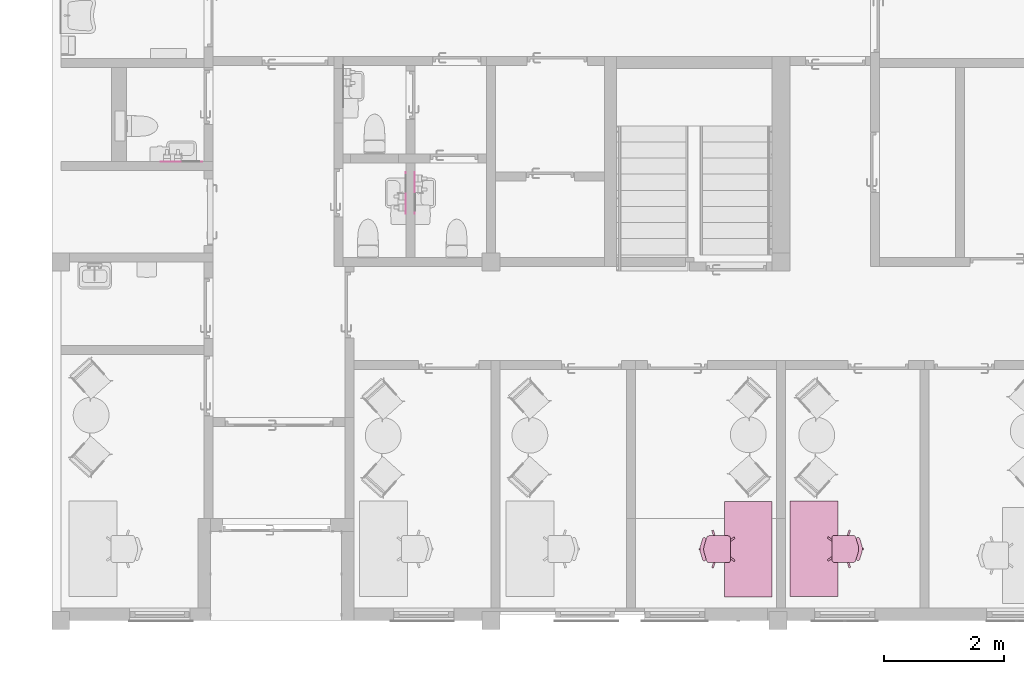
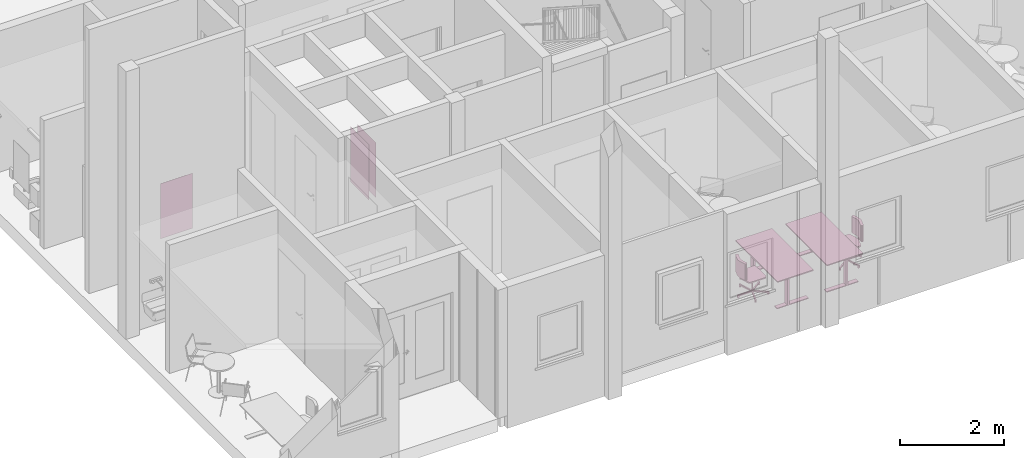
# One storey, part 47 of 58: 7 furnishings.
"""IFC2X3 building model written with IfcOpenShell, lengths in millimetres."""

from ifc_helpers import new_model, entity, si_unit, converted_unit, derived_unit, direction, frame, frame_2d, origin, origin_2d_with_axis, place, context, subcontext, project, spatial, polyline, circle_curve, parameter, trimmed, segment, composite_curve, rectangle, circle, outline, extrude, source, transform, mapped, material, material_list, type_object, type_shapes, element, save


model = new_model("IFC2X3")

# Units and contexts
model_context = context("Model", 3, precision=0.01, world=origin(), true_north=direction((0.7716245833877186, 0.6360782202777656)))
body_context = subcontext(model_context, "Body", "Model", "MODEL_VIEW")
ifc_project = project(units=[si_unit("LENGTHUNIT", "METRE", prefix="MILLI"), si_unit("AREAUNIT", "SQUARE_METRE"), converted_unit("PLANEANGLEUNIT", "DEGREE", entity("IfcPlaneAngleMeasure", 0.017453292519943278), si_unit("PLANEANGLEUNIT", "RADIAN"), dimensions=[0, 0, 0, 0, 0, 0, 0]), derived_unit("THERMALTRANSMITTANCEUNIT", [(si_unit("MASSUNIT", "GRAM", prefix="KILO"), 1), (si_unit("THERMODYNAMICTEMPERATUREUNIT", "KELVIN"), -1), (si_unit("TIMEUNIT", "SECOND"), -3)])], contexts=[model_context])

# Site, building, storey, space
site_placement = place(None, origin())
site = spatial("IfcSite", under=ifc_project, at=site_placement, Name="Default", CompositionType="ELEMENT")
building_placement = place(site_placement, origin())
building = spatial("IfcBuilding", under=site, at=building_placement, CompositionType="ELEMENT")
storey_placement = place(building_placement, frame((0.0, 0.0, 31140.0)))
storey = spatial("IfcBuildingStorey", under=building, at=storey_placement, Name="PLAN U1", CompositionType="ELEMENT", Elevation=31140.000000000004)
space_1_placement = place(storey_placement, origin())
space_1 = spatial("IfcSpace", under=storey, at=space_1_placement, Name="B5-324", CompositionType="ELEMENT", InteriorOrExteriorSpace="INTERNAL")

# Furnishings
ifc_material_1 = material(Name="Metall")
ifc_material_2 = material(Name="Stoff")
ifc_material_list_1 = material_list([ifc_material_1, ifc_material_2])
furniture_type_1 = type_object("IfcFurnitureType", Name="Kontorstol_uten_arml:Kontorstol", AssemblyPlace="NOTDEFINED", material=ifc_material_list_1)
shared_shape_1 = source(origin(), body_context, "Body", "SweptSolid", [
    extrude(rectangle(XDim=23.3196738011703, YDim=29.99387697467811, at=frame_2d((3.375077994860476e-14, 1.7763568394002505e-15), x_axis=(1.0, 0.0))), frame((-0.08594931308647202, -458.13719107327, 420.0), z_axis=(0.0, 0.0, 1.0), x_axis=(0.0, 1.0, 0.0)), (0.0, 0.0, 1.0), 79.99999999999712),
    extrude(outline(composite_curve([segment(trimmed(circle_curve(frame_2d((165.0817705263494, 15.912125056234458), x_axis=(1.0, 0.0)), 30.0), [parameter(295.76627852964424)], [parameter(98.60793662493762)], True, "PARAMETER"), True, "CONTINUOUS"), segment(polyline([(160.59160138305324, 45.57419479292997), (58.70469351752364, 14.060049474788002)]), True, "CONTINUOUS"), segment(trimmed(circle_curve(frame_2d((-0.3939245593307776, 205.1290248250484), x_axis=(1.0, 0.0)), 199.99999999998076), [parameter(252.8128926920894)], [parameter(287.1871075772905)], True, "PARAMETER"), False, "CONTINUOUS"), segment(polyline([(-59.492541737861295, 14.0600491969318), (-159.8037548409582, 45.08682349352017)]), True, "CONTINUOUS"), segment(trimmed(circle_curve(frame_2d((-164.29392269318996, 15.42475356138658), x_axis=(1.0, 0.0)), 30.0), [parameter(81.3920658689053)], [parameter(244.23371951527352)], True, "PARAMETER"), True, "CONTINUOUS"), segment(polyline([(-177.33495783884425, -11.592489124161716), (-59.492540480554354, -48.04175509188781)]), True, "CONTINUOUS"), segment(trimmed(circle_curve(frame_2d((-0.3939233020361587, 143.0272205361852), x_axis=(1.0, 0.0)), 199.99999999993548), [parameter(252.81289269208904)], [parameter(287.18710771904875)], True, "PARAMETER"), True, "CONTINUOUS"), segment(polyline([(58.70469524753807, -48.04175466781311), (178.12280475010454, -11.105118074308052)]), True, "CONTINUOUS")], self_intersect=False)), frame((0.39392509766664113, -452.30864581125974, 500.0)), (0.0, 0.0, 1.0), 384.9999999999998),
    extrude(outline(composite_curve([segment(polyline([(-185.0, -246.35232221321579), (185.0, -246.35232221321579)]), True, "CONTINUOUS"), segment(trimmed(circle_curve(frame_2d((185.0, -206.35232221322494), x_axis=(-1.0, 0.0)), 39.99999999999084), [parameter(89.99999999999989)], [parameter(180.00000000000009)], True, "PARAMETER"), True, "CONTINUOUS"), segment(polyline([(225.0, -206.35232221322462), (225.0, 106.42448376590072)]), True, "CONTINUOUS"), segment(trimmed(circle_curve(frame_2d((184.42156675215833, 110.53750606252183), x_axis=(-1.0, 0.0)), 40.78634828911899), [parameter(174.21227731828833)], [parameter(256.6772413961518)], True, "PARAMETER"), True, "CONTINUOUS"), segment(polyline([(193.82022104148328, 150.22618838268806), (59.098617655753, 191.8962741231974)]), True, "CONTINUOUS"), segment(trimmed(circle_curve(frame_2d((-4.212244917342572e-07, 0.8272987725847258), x_axis=(-1.0, 0.0)), 200.00000000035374), [parameter(252.81289242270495)], [parameter(287.1871075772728)], True, "PARAMETER"), True, "CONTINUOUS"), segment(polyline([(-59.09861849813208, 191.896274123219), (-193.8202209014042, 150.226188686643)]), True, "CONTINUOUS"), segment(trimmed(circle_curve(frame_2d((-184.37947209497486, 110.49005175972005), x_axis=(-1.0, 0.0)), 40.84223691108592), [parameter(283.3648812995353)], [parameter(354.02729163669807)], True, "PARAMETER"), True, "CONTINUOUS"), segment(polyline([(-225.0, 114.73987977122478), (-225.0, -206.35232221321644)]), True, "CONTINUOUS"), segment(trimmed(circle_curve(frame_2d((-185.0, -206.35232221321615), x_axis=(-1.0, 0.0)), 39.99999999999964), [parameter(359.9999999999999)], [parameter(89.99999999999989)], True, "PARAMETER"), True, "CONTINUOUS")], self_intersect=False)), frame((1.1704745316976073e-07, -246.35232221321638, 420.0), z_axis=(0.0, 0.0, 1.0), x_axis=(-1.0, 0.0, 0.0)), (0.0, 0.0, 1.0), 30.000000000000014),
    extrude(circle(Radius=19.999999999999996, at=frame_2d((0.0, -3.383959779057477e-14), x_axis=(1.0, 0.0))), frame((-194.12496236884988, 45.75823201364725, 20.0), z_axis=(0.8091973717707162, 0.5875369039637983, 0.0), x_axis=(-0.5875369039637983, 0.8091973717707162, 0.0)), (0.0, 0.0, 1.0), 29.630650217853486),
    extrude(circle(Radius=19.999999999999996, at=frame_2d((0.0, -8.882894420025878e-14), x_axis=(1.0, 0.0))), frame((-15.095151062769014, -506.38378426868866, 20.0), z_axis=(0.9999999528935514, -0.0003069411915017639, 0.0), x_axis=(-0.0003069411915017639, -0.9999999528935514, 0.0)), (0.0, 0.0, 1.0), 29.999999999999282),
    extrude(circle(Radius=19.999999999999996, at=frame_2d((0.0, -8.882894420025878e-14), x_axis=(1.0, 0.0))), frame((-299.4877855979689, -277.8259021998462, 20.0), z_axis=(0.3087250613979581, -0.9511513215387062, 0.0), x_axis=(-0.9511513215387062, -0.3087250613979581, 0.0)), (0.0, 0.0, 1.0), 29.99999999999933),
    extrude(circle(Radius=19.999999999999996, at=frame_2d((6.842675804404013e-15, -8.882894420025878e-14), x_axis=(1.0, 0.0))), frame((194.42294713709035, 45.53042146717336, 20.0), z_axis=(-0.8088365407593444, 0.5880335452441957, 0.0), x_axis=(0.5880335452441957, 0.8088365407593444, 0.0)), (0.0, 0.0, 1.0), 29.999999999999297),
    extrude(circle(Radius=19.999999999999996, at=frame_2d((0.0, -8.882894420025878e-14), x_axis=(1.0, 0.0))), frame((290.1584691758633, -306.53858576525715, 20.0), z_axis=(0.30930889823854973, 0.9509616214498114, 0.0), x_axis=(0.9509616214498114, -0.30930889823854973, 0.0)), (0.0, 0.0, 1.0), 29.999999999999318),
    extrude(circle(Radius=11.0, at=frame_2d((-8.56791021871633e-15, -6.228970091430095e-15), x_axis=(1.0, 0.0))), frame((0.0, -196.38840298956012, 248.23543396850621), z_axis=(0.0, 0.0, 1.0), x_axis=(0.8088365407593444, -0.5880335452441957, 0.0)), (0.0, 0.0, 1.0), 171.76456603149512),
    extrude(circle(Radius=14.999999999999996, at=frame_2d((1.2051828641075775e-14, 8.761819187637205e-15), x_axis=(1.0, 0.0))), frame((0.0, -196.38840298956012, 70.0), z_axis=(0.0, 0.0, 1.0), x_axis=(0.8088365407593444, -0.5880335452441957, 0.0)), (0.0, 0.0, 1.0), 178.2354339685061),
    extrude(outline(polyline([(20.59372489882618, -14.81532510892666), (330.00800060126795, -14.81532510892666), (330.00800060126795, 14.815325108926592), (20.593724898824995, 14.815325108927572), (116.2494564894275, 309.2133954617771), (87.71776100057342, 318.48390529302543), (-7.87796608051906, 24.270509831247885), (-258.1508287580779, 206.10438817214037), (-275.7843863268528, 181.83387834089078), (-25.511523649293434, 0.0), (-275.78438632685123, -181.83387834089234), (-258.1508287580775, -206.10438817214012), (-7.877966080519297, -24.27050983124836), (87.71776100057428, -318.4839052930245), (116.24945648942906, -309.2133954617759), (20.59372489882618, -14.81532510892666)])), frame((0.004700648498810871, -196.39487705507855, 40.0), z_axis=(0.0, 0.0, 1.0), x_axis=(-0.5875369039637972, 0.8091973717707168, 0.0)), (0.0, 0.0, 1.0), 29.999999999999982),
])
type_shapes(furniture_type_1, [shared_shape_1])
furnishing_1_placement = place(space_1_placement, frame((269922.92444647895, 54510.45756882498, 0.0), z_axis=(0.0, 0.0, 1.0), x_axis=(0.0, -1.0, 0.0)))
element("IfcFurnishingElement", 1, at=furnishing_1_placement, inside=space_1, type_object=furniture_type_1, material=ifc_material_list_1, Name="Kontorstol_uten_arml:Kontorstol", ObjectType="Kontorstol_uten_arml:Kontorstol", context=body_context, shape_type="MappedRepresentation", body=[
    mapped(shared_shape_1, transform((0.0, 0.0, 0.0), scale=1.0)),
])
ifc_material_3 = material(Name="Plate")
ifc_material_list_2 = material_list([ifc_material_1, ifc_material_3])
furniture_type_2 = type_object("IfcFurnitureType", Name="Arbeidsbord_elektrisk_hevsenk:Arbbord 800x1600", AssemblyPlace="NOTDEFINED", material=ifc_material_list_2)
shared_shape_2 = source(origin(), body_context, "Body", "SweptSolid", [
    extrude(rectangle(XDim=50.0, YDim=99.99999999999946, at=origin_2d_with_axis()), frame((650.0, 300.0, 20.0), z_axis=(0.0, 0.0, 1.0), x_axis=(0.0, -1.0, 0.0)), (0.0, 0.0, 1.0), 674.9999999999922),
    extrude(rectangle(XDim=50.0, YDim=99.99999999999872, at=frame_2d((0.0, 3.552713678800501e-14), x_axis=(1.0, 0.0))), frame((-650.0, 300.0, 20.0), z_axis=(0.0, 0.0, 1.0), x_axis=(0.0, -1.0, 0.0)), (0.0, 0.0, 1.0), 674.9999999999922),
    extrude(rectangle(XDim=699.9999999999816, YDim=99.99999999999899, at=frame_2d((0.0, 3.552713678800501e-14), x_axis=(1.0, 0.0))), frame((650.0, 400.0, 0.0), z_axis=(0.0, 0.0, 1.0), x_axis=(0.0, 1.0, 0.0)), (0.0, 0.0, 1.0), 19.999999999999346),
    extrude(rectangle(XDim=699.9999999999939, YDim=100.00000000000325, at=frame_2d((-2.842170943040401e-14, 0.0), x_axis=(1.0, 0.0))), frame((-650.0, 400.0, 0.0), z_axis=(0.0, 0.0, 1.0), x_axis=(0.0, 1.0, 0.0)), (0.0, 0.0, 1.0), 19.999999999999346),
    extrude(rectangle(XDim=799.9999999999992, YDim=1599.9999999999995, at=origin_2d_with_axis()), frame((0.0, 400.0, 695.0), z_axis=(0.0, 0.0, 1.0), x_axis=(0.0, 1.0, 0.0)), (0.0, 0.0, 1.0), 25.00000000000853),
    extrude(rectangle(XDim=799.9999999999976, YDim=1599.9999999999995, at=origin_2d_with_axis()), frame((0.0, 400.0, 695.0), z_axis=(0.0, 0.0, 1.0), x_axis=(0.0, 1.0, 0.0)), (0.0, 0.0, 1.0), 25.00000000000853),
])
type_shapes(furniture_type_2, [shared_shape_2])
furnishing_2_placement = place(storey_placement, frame((271722.92444647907, 54515.25555007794, 0.0), z_axis=(0.0, 0.0, 1.0), x_axis=(0.0, 1.0, 0.0)))
element("IfcFurnishingElement", 2, at=furnishing_2_placement, inside=storey, type_object=furniture_type_2, material=ifc_material_list_2, Name="Arbeidsbord_elektrisk_hevsenk:Arbbord 800x1600", ObjectType="Arbeidsbord_elektrisk_hevsenk:Arbbord 800x1600", context=body_context, shape_type="MappedRepresentation", body=[
    mapped(shared_shape_2, transform((0.0, 0.0, 0.0), scale=1.0)),
])
furniture_type_3 = type_object("IfcFurnitureType", Name="Kontorstol_uten_arml:Kontorstol", AssemblyPlace="NOTDEFINED", material=ifc_material_list_1)
shared_shape_3 = source(origin(), body_context, "Body", "SweptSolid", [
    extrude(rectangle(XDim=29.993876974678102, YDim=23.3196738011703, at=frame_2d((2.6645352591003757e-15, 3.375077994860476e-14), x_axis=(1.0, 0.0))), frame((-0.08594931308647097, 458.13719107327, 420.0), z_axis=(0.0, 0.0, 1.0), x_axis=(-1.0, 0.0, 0.0)), (0.0, 0.0, 1.0), 79.99999999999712),
    extrude(outline(composite_curve([segment(polyline([(-166.8872231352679, -63.24327611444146), (-41.887223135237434, -63.243276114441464)]), True, "CONTINUOUS"), segment(trimmed(circle_curve(frame_2d((-41.88722313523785, 136.75672388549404), x_axis=(-0.9553448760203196, -0.2954930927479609)), 199.99999999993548), [parameter(72.81289228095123)], [parameter(107.18710730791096)], True, "PARAMETER"), True, "CONTINUOUS"), segment(polyline([(71.03190050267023, -28.316809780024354), (172.84154377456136, 41.3264300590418)]), True, "CONTINUOUS"), segment(trimmed(circle_curve(frame_2d((152.39944907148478, 63.28367861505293), x_axis=(-0.9553448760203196, -0.2954930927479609)), 30.0), [parameter(115.7662804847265)], [parameter(278.6079341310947)], True, "PARAMETER"), True, "CONTINUOUS"), segment(polyline([(139.34485343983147, 90.29437155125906), (52.681247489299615, 31.01183111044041)]), True, "CONTINUOUS"), segment(trimmed(circle_curve(frame_2d((-60.2378761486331, 196.0853647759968), x_axis=(-0.9553448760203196, -0.2954930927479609)), 199.99999999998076), [parameter(72.81289242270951)], [parameter(107.18710730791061)], True, "PARAMETER"), False, "CONTINUOUS"), segment(polyline([(-60.23787565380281, -3.9146352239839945), (-166.88722328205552, -3.9146354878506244)]), True, "CONTINUOUS"), segment(trimmed(circle_curve(frame_2d((-162.41194664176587, -33.57895579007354), x_axis=(-0.9553448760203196, -0.2954930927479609)), 30.0), [parameter(261.3920633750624)], [parameter(64.23372147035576)], True, "PARAMETER"), True, "CONTINUOUS")], self_intersect=False)), frame((0.3939250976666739, 452.3086458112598, 500.0), z_axis=(0.0, 0.0, 1.0), x_axis=(-0.955344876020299, 0.29549309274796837, 0.0)), (0.0, 0.0, 1.0), 384.9999999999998),
    extrude(outline(composite_curve([segment(trimmed(circle_curve(frame_2d((185.0, -206.35232221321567), x_axis=(1.0, 0.0)), 39.99999999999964), [parameter(270.0000000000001)], [parameter(1.0177774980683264e-13)], True, "PARAMETER"), True, "CONTINUOUS"), segment(polyline([(225.0, -206.35232221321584), (225.0, 114.73987977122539)]), True, "CONTINUOUS"), segment(trimmed(circle_curve(frame_2d((184.37947209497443, 110.49005175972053), x_axis=(1.0, 0.0)), 40.84223691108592), [parameter(5.972708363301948)], [parameter(76.63511870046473)], True, "PARAMETER"), True, "CONTINUOUS"), segment(polyline([(193.82022090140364, 150.22618868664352), (59.098618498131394, 191.8962741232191)]), True, "CONTINUOUS"), segment(trimmed(circle_curve(frame_2d((4.212244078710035e-07, 0.8272987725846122), x_axis=(1.0, 0.0)), 200.00000000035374), [parameter(72.81289242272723)], [parameter(107.18710757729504)], True, "PARAMETER"), True, "CONTINUOUS"), segment(polyline([(-59.09861765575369, 191.8962741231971), (-193.82022104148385, 150.22618838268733)]), True, "CONTINUOUS"), segment(trimmed(circle_curve(frame_2d((-184.42156675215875, 110.53750606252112), x_axis=(1.0, 0.0)), 40.78634828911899), [parameter(103.32275860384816)], [parameter(185.78772268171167)], True, "PARAMETER"), True, "CONTINUOUS"), segment(polyline([(-225.0, 106.42448376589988), (-225.0, -206.35232221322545)]), True, "CONTINUOUS"), segment(trimmed(circle_curve(frame_2d((-185.0, -206.35232221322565), x_axis=(1.0, 0.0)), 39.99999999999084), [parameter(179.99999999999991)], [parameter(270.0000000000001)], True, "PARAMETER"), True, "CONTINUOUS"), segment(polyline([(-185.0, -246.3523222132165), (185.0, -246.3523222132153)]), True, "CONTINUOUS")], self_intersect=False)), frame((1.1704753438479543e-07, 246.3523222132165, 420.0)), (0.0, 0.0, 1.0), 30.000000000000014),
    extrude(circle(Radius=19.999999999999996, at=frame_2d((0.0, -8.882894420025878e-14), x_axis=(1.0, 0.0))), frame((-194.12496236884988, -45.75823201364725, 20.0), z_axis=(0.8091973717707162, -0.5875369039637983, 0.0), x_axis=(-0.5875369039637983, -0.8091973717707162, 0.0)), (0.0, 0.0, 1.0), 29.630650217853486),
    extrude(circle(Radius=19.999999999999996, at=frame_2d((0.0, -3.383959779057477e-14), x_axis=(1.0, 0.0))), frame((-15.095151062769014, 506.38378426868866, 20.0), z_axis=(0.9999999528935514, 0.0003069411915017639, 0.0), x_axis=(-0.0003069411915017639, 0.9999999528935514, 0.0)), (0.0, 0.0, 1.0), 29.999999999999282),
    extrude(circle(Radius=19.999999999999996, at=frame_2d((0.0, -3.383959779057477e-14), x_axis=(1.0, 0.0))), frame((-299.4877855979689, 277.8259021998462, 20.0), z_axis=(0.3087250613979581, 0.9511513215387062, 0.0), x_axis=(-0.9511513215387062, 0.3087250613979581, 0.0)), (0.0, 0.0, 1.0), 29.99999999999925),
    extrude(circle(Radius=19.999999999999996, at=frame_2d((0.0, -8.882894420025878e-14), x_axis=(1.0, 0.0))), frame((170.15785091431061, -63.17142782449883, 20.0), z_axis=(0.8088365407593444, 0.5880335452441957, 0.0), x_axis=(0.5880335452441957, -0.8088365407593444, 0.0)), (0.0, 0.0, 1.0), 29.999999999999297),
    extrude(circle(Radius=19.999999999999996, at=frame_2d((0.0, -8.882894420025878e-14), x_axis=(1.0, 0.0))), frame((299.4377361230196, 278.00973712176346, 20.0), z_axis=(-0.30930889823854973, 0.9509616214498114, 0.0), x_axis=(0.9509616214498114, 0.30930889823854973, 0.0)), (0.0, 0.0, 1.0), 29.999999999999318),
    extrude(circle(Radius=11.0, at=frame_2d((-1.5007502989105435e-14, -7.276412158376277e-14), x_axis=(1.0, 0.0))), frame((0.0, 196.38840298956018, 248.23543396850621), z_axis=(0.0, 0.0, 1.0), x_axis=(0.8088365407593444, 0.5880335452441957, 0.0)), (0.0, 0.0, 1.0), 171.76456603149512),
    extrude(circle(Radius=14.999999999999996, at=frame_2d((1.2051828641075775e-14, -8.761819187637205e-15), x_axis=(1.0, 0.0))), frame((0.0, 196.38840298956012, 70.0), z_axis=(0.0, 0.0, 1.0), x_axis=(0.8088365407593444, 0.5880335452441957, 0.0)), (0.0, 0.0, 1.0), 178.2354339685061),
    extrude(outline(polyline([(20.45402245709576, -15.007609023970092), (330.00247232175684, -15.007609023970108), (330.00247232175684, 14.992390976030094), (20.648201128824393, 14.992390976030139), (116.24392820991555, 309.2057864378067), (87.71223272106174, 318.4762962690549), (-7.88349436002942, 24.262900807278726), (-258.1563570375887, 206.09677914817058), (-275.7899146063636, 181.82626931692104), (-25.517051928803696, -0.007609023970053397), (-275.7899146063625, -181.84148736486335), (-258.15635703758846, -206.11199719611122), (-7.726400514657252, -24.163983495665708), (87.88786897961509, -318.43444663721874), (116.06829195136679, -309.2780721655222), (20.45402245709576, -15.007609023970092)])), frame((0.004700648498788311, 196.3948770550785, 40.0), z_axis=(0.0, 0.0, 1.0), x_axis=(0.5880335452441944, -0.8088365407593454, 0.0)), (0.0, 0.0, 1.0), 29.999999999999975),
])
type_shapes(furniture_type_3, [shared_shape_3])
furnishing_3_placement = place(storey_placement, frame((271622.92444647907, 54515.255550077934, 0.0), z_axis=(0.0, 0.0, 1.0), x_axis=(0.0, -1.0, 0.0)))
element("IfcFurnishingElement", 3, at=furnishing_3_placement, inside=storey, type_object=furniture_type_3, material=ifc_material_list_1, Name="Kontorstol_uten_arml:Kontorstol", ObjectType="Kontorstol_uten_arml:Kontorstol", context=body_context, shape_type="MappedRepresentation", body=[
    mapped(shared_shape_3, transform((0.0, 0.0, 0.0), scale=1.0)),
])
furniture_type_4 = type_object("IfcFurnitureType", Name="Arbeidsbord_elektrisk_hevsenk:Arbbord 800x1600", AssemblyPlace="NOTDEFINED", material=ifc_material_list_2)
shared_shape_4 = source(origin(), body_context, "Body", "SweptSolid", [
    extrude(rectangle(XDim=99.99999999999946, YDim=50.0, at=origin_2d_with_axis()), frame((650.0, -300.0, 20.0)), (0.0, 0.0, 1.0), 674.9999999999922),
    extrude(rectangle(XDim=99.99999999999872, YDim=50.0, at=frame_2d((3.552713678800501e-14, 0.0), x_axis=(1.0, 0.0))), frame((-650.0, -300.0, 20.0)), (0.0, 0.0, 1.0), 674.9999999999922),
    extrude(rectangle(XDim=99.99999999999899, YDim=699.9999999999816, at=frame_2d((3.552713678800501e-14, 0.0), x_axis=(1.0, 0.0))), frame((650.0, -400.0, 0.0), z_axis=(0.0, 0.0, 1.0), x_axis=(-1.0, 0.0, 0.0)), (0.0, 0.0, 1.0), 19.999999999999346),
    extrude(rectangle(XDim=100.00000000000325, YDim=699.999999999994, at=frame_2d((0.0, -5.684341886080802e-14), x_axis=(1.0, 0.0))), frame((-650.0, -400.0, 0.0), z_axis=(0.0, 0.0, 1.0), x_axis=(-1.0, 0.0, 0.0)), (0.0, 0.0, 1.0), 19.999999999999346),
    extrude(rectangle(XDim=1599.9999999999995, YDim=799.9999999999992, at=origin_2d_with_axis()), frame((0.0, -400.0, 695.0), z_axis=(0.0, 0.0, 1.0), x_axis=(-1.0, 0.0, 0.0)), (0.0, 0.0, 1.0), 25.00000000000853),
    extrude(rectangle(XDim=1599.9999999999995, YDim=799.9999999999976, at=origin_2d_with_axis()), frame((0.0, -400.0, 695.0), z_axis=(0.0, 0.0, 1.0), x_axis=(-1.0, 0.0, 0.0)), (0.0, 0.0, 1.0), 25.00000000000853),
])
type_shapes(furniture_type_4, [shared_shape_4])
furnishing_4_placement = place(space_1_placement, frame((269822.924446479, 54510.45756882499, 0.0), z_axis=(0.0, 0.0, 1.0), x_axis=(0.0, 1.0, 0.0)))
element("IfcFurnishingElement", 4, at=furnishing_4_placement, inside=space_1, type_object=furniture_type_4, material=ifc_material_list_2, Name="Arbeidsbord_elektrisk_hevsenk:Arbbord 800x1600", ObjectType="Arbeidsbord_elektrisk_hevsenk:Arbbord 800x1600", context=body_context, shape_type="MappedRepresentation", body=[
    mapped(shared_shape_4, transform((0.0, 0.0, 0.0), scale=1.0)),
])

# Space
space_2_placement = place(storey_placement, origin())
space_2 = spatial("IfcSpace", under=storey, at=space_2_placement, Name="B5-311A", CompositionType="ELEMENT", InteriorOrExteriorSpace="INTERNAL")

# Furnishing
ifc_material_4 = material(Name="<Unnamed>")
furniture_type_5 = type_object("IfcFurnitureType", Name="V2 - Håndvaskgarnityr type 2, bakplate:Håndvaskgarnityr type 2", AssemblyPlace="NOTDEFINED", material=ifc_material_4)
shared_shape_5 = source(origin(), body_context, "Body", "SweptSolid", [
    extrude(rectangle(XDim=2.0, YDim=700.0000000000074, at=origin_2d_with_axis()), frame((0.0, 4.0, 610.0), z_axis=(0.0, 0.0, 1.0), x_axis=(0.0, 1.0, 0.0)), (0.0, 0.0, 1.0), 1289.9999999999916),
])
type_shapes(furniture_type_5, [shared_shape_5])
furnishing_5_placement = place(space_2_placement, frame((264647.924446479, 60470.72307172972, 0.0), z_axis=(0.0, 0.0, 1.0), x_axis=(0.0, 1.0, 0.0)))
element("IfcFurnishingElement", 5, at=furnishing_5_placement, inside=space_2, type_object=furniture_type_5, material=ifc_material_4, Name="V2 - Håndvaskgarnityr type 2, bakplate:Håndvaskgarnityr type 2", ObjectType="V2 - Håndvaskgarnityr type 2, bakplate:Håndvaskgarnityr type 2", context=body_context, shape_type="MappedRepresentation", body=[
    mapped(shared_shape_5, transform((0.0, 0.0, 0.0), scale=1.0)),
])

# Space
space_3_placement = place(storey_placement, origin())
space_3 = spatial("IfcSpace", under=storey, at=space_3_placement, Name="B5-311B", CompositionType="ELEMENT", InteriorOrExteriorSpace="INTERNAL")

# Furnishing
furniture_type_6 = type_object("IfcFurnitureType", Name="V2 - Håndvaskgarnityr type 2, bakplate:Håndvaskgarnityr type 2", AssemblyPlace="NOTDEFINED", material=ifc_material_4)
shared_shape_6 = source(origin(), body_context, "Body", "SweptSolid", [
    extrude(rectangle(XDim=2.0, YDim=700.0000000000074, at=origin_2d_with_axis()), frame((0.0, 4.0, 610.0), z_axis=(0.0, 0.0, 1.0), x_axis=(0.0, 1.0, 0.0)), (0.0, 0.0, 1.0), 1289.9999999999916),
])
type_shapes(furniture_type_6, [shared_shape_6])
furnishing_6_placement = place(space_3_placement, frame((264487.92444647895, 60470.72307172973, 0.0), z_axis=(0.0, 0.0, 1.0), x_axis=(0.0, -1.0, 0.0)))
element("IfcFurnishingElement", 6, at=furnishing_6_placement, inside=space_3, type_object=furniture_type_6, material=ifc_material_4, Name="V2 - Håndvaskgarnityr type 2, bakplate:Håndvaskgarnityr type 2", ObjectType="V2 - Håndvaskgarnityr type 2, bakplate:Håndvaskgarnityr type 2", context=body_context, shape_type="MappedRepresentation", body=[
    mapped(shared_shape_6, transform((0.0, 0.0, 0.0), scale=1.0)),
])

# Space
space_4_placement = place(storey_placement, origin())
space_4 = spatial("IfcSpace", under=storey, at=space_4_placement, Name="B5-303", CompositionType="ELEMENT", InteriorOrExteriorSpace="INTERNAL")

# Furnishing
furnishing_7_placement = place(space_4_placement, frame((260737.9244464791, 60999.50163955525, 0.0), z_axis=(0.0, 0.0, 1.0), x_axis=(-1.0, 0.0, 0.0)))
element("IfcFurnishingElement", 7, at=furnishing_7_placement, inside=space_4, type_object=furniture_type_6, material=ifc_material_4, Name="V2 - Håndvaskgarnityr type 2, bakplate:Håndvaskgarnityr type 2", ObjectType="V2 - Håndvaskgarnityr type 2, bakplate:Håndvaskgarnityr type 2", context=body_context, shape_type="MappedRepresentation", body=[
    mapped(shared_shape_6, transform((0.0, 0.0, 0.0), scale=1.0)),
])

save(model, "model.ifc")
